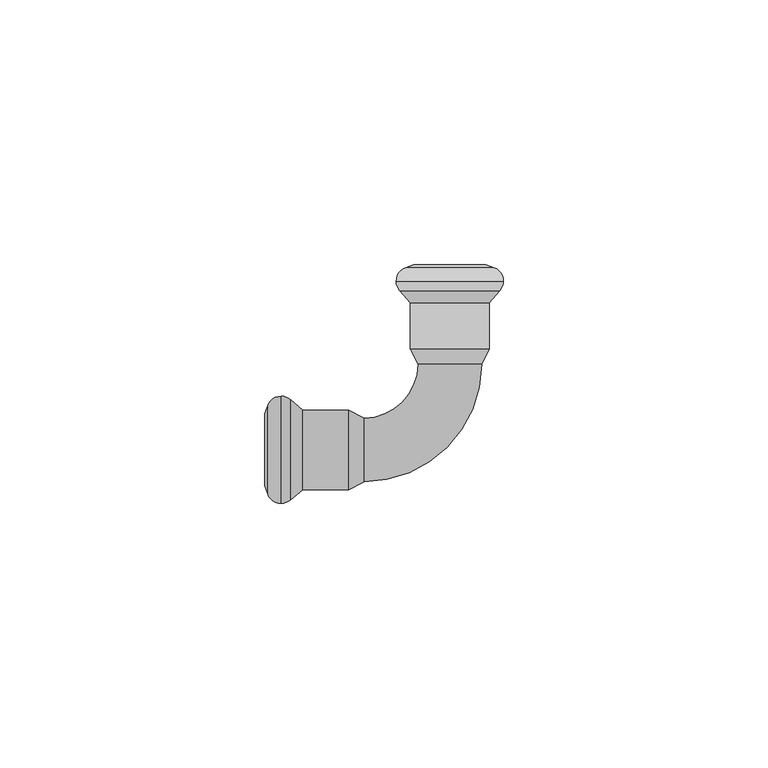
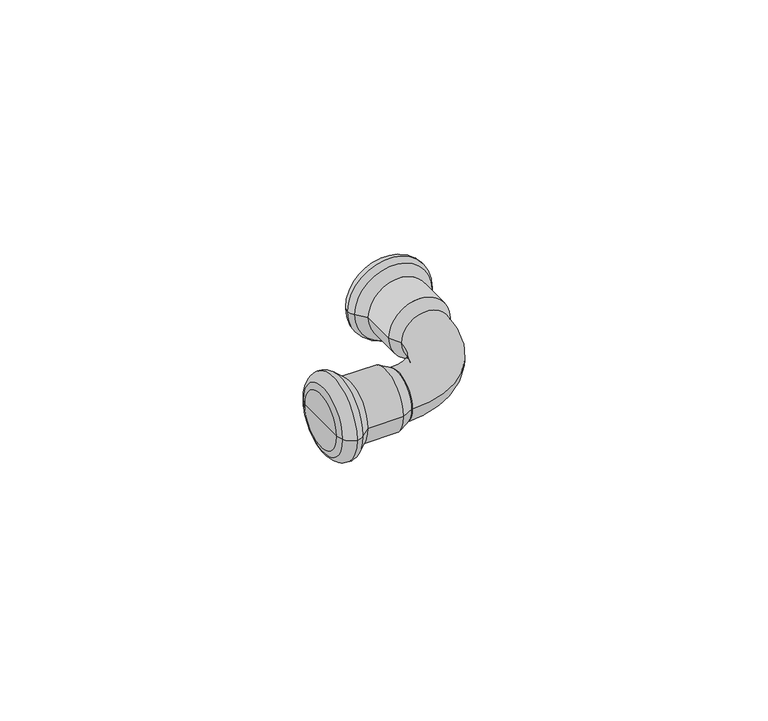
"""IFC4 building model written with IfcOpenShell, lengths in millimetres: pipe fitting geometry, KAN-therm Steel kolano : KAN-therm Steel kolano."""

from ifc_helpers import new_model, si_unit, point, frame, origin, place, context, project, spatial, polyline, circle_curve, ellipse_curve, trimmed, source, transform, mapped, element, save
from ifc_brep_helpers import plane_surface, cylinder_surface, revolved_surface, advanced_brep


def pipe_fitting_0f95d3b4(model_context):
    return source(origin(), model_context, "Body", "AdvancedBrep", [
        advanced_brep(
        [(-16.2, -6.0, 0.0), (-16.2, 6.0, 0.0), (6.0, 16.2, 0.0), (-6.0, 16.2, 0.0)],
        [
            (0, 1, circle_curve(frame((-16.2, 0.0, 0.0), z_axis=(-1.0, 0.0, 0.0), x_axis=(0.0, 1.0, 0.0)), 6.0)),
            (1, 0, circle_curve(frame((-16.2, 0.0, 0.0), z_axis=(-1.0, 0.0, 0.0), x_axis=(0.0, 1.0, 0.0)), 6.0)),
            (2, 3, circle_curve(frame((0.0, 16.2, 0.0), z_axis=(0.0, 1.0, 0.0), x_axis=(-1.0, 0.0, 0.0)), 6.0)),
            (3, 2, circle_curve(frame((0.0, 16.2, 0.0), z_axis=(0.0, 1.0, 0.0), x_axis=(-1.0, 0.0, 0.0)), 6.0)),
            (3, 1, circle_curve(frame((-16.2, 16.2, 0.0), z_axis=(0.0, 0.0, -1.0), x_axis=(0.0, -1.0, 0.0)), 10.2)),
            (0, 2, circle_curve(frame((-16.2, 16.2, 0.0), z_axis=(0.0, 0.0, 1.0), x_axis=(0.0, -1.0, 0.0)), 22.2)),
        ],
        [
            plane_surface(frame((-16.2, 0.0, 0.0), z_axis=(-1.0, 0.0, 0.0), x_axis=(0.0, 0.0, 1.0))),
            plane_surface(frame((0.0, 16.2, 0.0), z_axis=(0.0, 1.0, 0.0), x_axis=(0.0, 0.0, 1.0))),
            revolved_surface(trimmed(ellipse_curve(frame((-16.2, 0.0, 0.0), z_axis=(-1.0, 0.0, 0.0), x_axis=(0.0, 1.0, 0.0)), 6.0, 6.0), [point((-16.2, -6.0, 0.0))], [point((-16.2, 6.0, 0.0))], True, "CARTESIAN"), (-16.2, 16.2, 0.0), (0.0, 0.0, 1.0)),
            revolved_surface(trimmed(ellipse_curve(frame((-16.2, 0.0, 0.0), z_axis=(-1.0, 0.0, 0.0), x_axis=(0.0, 1.0, 0.0)), 6.0, 6.0), [point((-16.2, 6.0, 0.0))], [point((-16.2, -6.0, 0.0))], True, "CARTESIAN"), (-16.2, 16.2, 0.0), (0.0, 0.0, 1.0)),
        ],
        [
            (0, [[1, 2]]),
            (1, [[3, 4]]),
            (2, [[5, -1, 6, -4]]),
            (3, [[-6, -2, -5, -3]]),
        ],
    ),
        advanced_brep(
        [(10.125, 31.8921278, 0.0), (-10.125, 31.8921278, 0.0), (-8.3484544, 34.432052, 0.0), (8.3484544, 34.432052, 0.0), (9.4370225, 30.0922627, 0.0), (-9.4370225, 30.0922627, 0.0), (7.5, 27.7838092, 0.0), (-7.5, 27.7838092, 0.0), (7.5, 19.1180407, 0.0), (-7.5, 19.1180407, 0.0), (6.0, 16.2, 0.0), (-6.0, 16.2, 0.0), (0.0, 16.2, 0.0), (6.7880302, 35.0, 0.0), (-6.7880302, 35.0, 0.0), (0.0, 35.0, 0.0)],
        [
            (0, 1, circle_curve(frame((0.0, 31.8921278, 0.0), z_axis=(0.0, 1.0, 0.0), x_axis=(-1.0, 0.0, 0.0)), 10.125)),
            (1, 2, circle_curve(frame((-7.4249993, 31.89488, 0.0), z_axis=(0.0, 0.0, -1.0), x_axis=(1.0, 0.0, 0.0)), 2.7000021)),
            (2, 3, circle_curve(frame((0.0, 34.432052, 0.0), z_axis=(0.0, -1.0, 0.0), x_axis=(-1.0, 0.0, 0.0)), 8.3484544)),
            (3, 0, circle_curve(frame((7.4249993, 31.89488, 0.0), z_axis=(0.0, 0.0, -1.0), x_axis=(-1.0, 0.0, 0.0)), 2.7000021)),
            (1, 0, circle_curve(frame((0.0, 31.8921278, 0.0), z_axis=(0.0, 1.0, 0.0), x_axis=(-1.0, 0.0, 0.0)), 10.125)),
            (3, 2, circle_curve(frame((0.0, 34.432052, 0.0), z_axis=(0.0, -1.0, 0.0), x_axis=(-1.0, 0.0, 0.0)), 8.3484544)),
            (4, 5, circle_curve(frame((0.0, 30.0922627, 0.0), z_axis=(0.0, 1.0, 0.0), x_axis=(-1.0, 0.0, 0.0)), 9.4370225)),
            (5, 1, circle_curve(frame((-7.4230333, 31.8935049, 0.0), z_axis=(0.0, 0.0, -1.0), x_axis=(1.0, 0.0, 0.0)), 2.701967)),
            (0, 4, circle_curve(frame((7.4230333, 31.8935049, 0.0), z_axis=(0.0, 0.0, -1.0), x_axis=(-1.0, 0.0, 0.0)), 2.701967)),
            (5, 4, circle_curve(frame((0.0, 30.0922627, 0.0), z_axis=(0.0, 1.0, 0.0), x_axis=(-1.0, 0.0, 0.0)), 9.4370225)),
            (6, 7, circle_curve(frame((0.0, 27.7838092, 0.0), z_axis=(0.0, 1.0, 0.0), x_axis=(-1.0, 0.0, 0.0)), 7.5)),
            (7, 5),
            (4, 6),
            (7, 6, circle_curve(frame((0.0, 27.7838092, 0.0), z_axis=(0.0, 1.0, 0.0), x_axis=(-1.0, 0.0, 0.0)), 7.5)),
            (8, 9, circle_curve(frame((0.0, 19.1180407, 0.0), z_axis=(0.0, 1.0, 0.0), x_axis=(-1.0, 0.0, 0.0)), 7.5)),
            (9, 7),
            (6, 8),
            (9, 8, circle_curve(frame((0.0, 19.1180407, 0.0), z_axis=(0.0, 1.0, 0.0), x_axis=(-1.0, 0.0, 0.0)), 7.5)),
            (10, 11, circle_curve(frame((0.0, 16.2, 0.0), z_axis=(0.0, 1.0, 0.0), x_axis=(-1.0, 0.0, 0.0)), 6.0)),
            (11, 9),
            (8, 10),
            (11, 10, circle_curve(frame((0.0, 16.2, 0.0), z_axis=(0.0, 1.0, 0.0), x_axis=(-1.0, 0.0, 0.0)), 6.0)),
            (12, 11),
            (10, 12),
            (13, 14, circle_curve(frame((0.0, 35.0, 0.0), z_axis=(0.0, 1.0, 0.0), x_axis=(-1.0, 0.0, 0.0)), 6.7880302)),
            (14, 15),
            (15, 13),
            (14, 13, circle_curve(frame((0.0, 35.0, 0.0), z_axis=(0.0, 1.0, 0.0), x_axis=(-1.0, 0.0, 0.0)), 6.7880302)),
            (2, 14),
            (13, 3),
        ],
        [
            revolved_surface(trimmed(ellipse_curve(frame((-7.4249993, 31.89488, 0.0), z_axis=(0.0, 0.0, 1.0), x_axis=(1.0, 0.0, 0.0)), 2.7000021, 2.7000021), [point((-8.3484544, 34.432052, 0.0))], [point((-10.125, 31.8921278, 0.0))], True, "CARTESIAN"), (0.0, 1994.0, 0.0), (0.0, -1.0, 0.0)),
            revolved_surface(trimmed(ellipse_curve(frame((-7.4230333, 31.8935049, 0.0), z_axis=(0.0, 0.0, 1.0), x_axis=(1.0, 0.0, 0.0)), 2.701967, 2.701967), [point((-10.125, 31.8921278, 0.0))], [point((-9.4370225, 30.0922627, 0.0))], True, "CARTESIAN"), (0.0, 1994.0, 0.0), (0.0, -1.0, 0.0)),
            revolved_surface(polyline([(-9.4370225, 30.0922627, 0.0), (-7.5, 27.7838092, 0.0)]), (0.0, 1994.0, 0.0), (0.0, -1.0, 0.0)),
            cylinder_surface(frame((0.0, 1994.0, 0.0), z_axis=(0.0, -1.0, 0.0), x_axis=(-1.0, 0.0, 0.0)), 7.5),
            revolved_surface(polyline([(-7.5, 19.1180407, 0.0), (-6.0, 16.2, 0.0)]), (0.0, 1994.0, 0.0), (0.0, -1.0, 0.0)),
            plane_surface(frame((0.0, 16.2, 0.0), z_axis=(0.0, -1.0, 0.0), x_axis=(-1.0, 0.0, 0.0))),
            plane_surface(frame((0.0, 35.0, 0.0), z_axis=(0.0, 1.0, 0.0), x_axis=(-1.0, 0.0, 0.0))),
            revolved_surface(polyline([(-6.7880302, 35.0, 0.0), (-8.3484544, 34.432052, 0.0)]), (0.0, 1994.0, 0.0), (0.0, -1.0, 0.0)),
        ],
        [
            (0, [[1, 2, 3, 4]]),
            (0, [[5, -4, 6, -2]]),
            (1, [[7, 8, -1, 9]]),
            (1, [[10, -9, -5, -8]]),
            (2, [[11, 12, -7, 13]]),
            (2, [[14, -13, -10, -12]]),
            (3, [[15, 16, -11, 17]]),
            (3, [[18, -17, -14, -16]]),
            (4, [[19, 20, -15, 21]]),
            (4, [[22, -21, -18, -20]]),
            (5, [[23, -19, 24]]),
            (5, [[-24, -22, -23]]),
            (6, [[25, 26, 27]]),
            (6, [[28, -27, -26]]),
            (7, [[-3, 29, -25, 30]]),
            (7, [[-6, -30, -28, -29]]),
        ],
    ),
        advanced_brep(
        [(-19.1180407, -7.5, 0.0), (-19.1180407, 7.5, 0.0), (-16.2, 6.0, 0.0), (-16.2, -6.0, 0.0), (-27.7838092, -7.5, 0.0), (-27.7838092, 7.5, 0.0), (-30.0922627, -9.4370225, 0.0), (-30.0922627, 9.4370225, 0.0), (-31.8921278, -10.125, 0.0), (-31.8921278, 10.125, 0.0), (-34.432052, -8.3484544, 0.0), (-34.432052, 8.3484544, 0.0), (-35.0, -6.7880302, 0.0), (-35.0, 6.7880302, 0.0), (-35.0, 0.0, 0.0), (-16.2, 0.0, 0.0)],
        [
            (0, 1, circle_curve(frame((-19.1180407, 0.0, 0.0), z_axis=(1.0, 0.0, 0.0), x_axis=(0.0, 1.0, 0.0)), 7.5)),
            (1, 2),
            (2, 3, circle_curve(frame((-16.2, 0.0, 0.0), z_axis=(-1.0, 0.0, 0.0), x_axis=(0.0, 1.0, 0.0)), 6.0)),
            (3, 0),
            (1, 0, circle_curve(frame((-19.1180407, 0.0, 0.0), z_axis=(1.0, 0.0, 0.0), x_axis=(0.0, 1.0, 0.0)), 7.5)),
            (3, 2, circle_curve(frame((-16.2, 0.0, 0.0), z_axis=(-1.0, 0.0, 0.0), x_axis=(0.0, 1.0, 0.0)), 6.0)),
            (4, 5, circle_curve(frame((-27.7838092, 0.0, 0.0), z_axis=(1.0, 0.0, 0.0), x_axis=(0.0, 1.0, 0.0)), 7.5)),
            (5, 1),
            (0, 4),
            (5, 4, circle_curve(frame((-27.7838092, 0.0, 0.0), z_axis=(1.0, 0.0, 0.0), x_axis=(0.0, 1.0, 0.0)), 7.5)),
            (6, 7, circle_curve(frame((-30.0922627, 0.0, 0.0), z_axis=(1.0, 0.0, 0.0), x_axis=(0.0, 1.0, 0.0)), 9.4370225)),
            (7, 5),
            (4, 6),
            (7, 6, circle_curve(frame((-30.0922627, 0.0, 0.0), z_axis=(1.0, 0.0, 0.0), x_axis=(0.0, 1.0, 0.0)), 9.4370225)),
            (8, 9, circle_curve(frame((-31.8921278, 0.0, 0.0), z_axis=(1.0, 0.0, 0.0), x_axis=(0.0, 1.0, 0.0)), 10.125)),
            (9, 7, circle_curve(frame((-31.8935049, 7.4230333, 0.0), z_axis=(0.0, 0.0, -1.0), x_axis=(1.0, 0.0, 0.0)), 2.701967)),
            (6, 8, circle_curve(frame((-31.8935049, -7.4230333, 0.0), z_axis=(0.0, 0.0, -1.0), x_axis=(1.0, 0.0, 0.0)), 2.701967)),
            (9, 8, circle_curve(frame((-31.8921278, 0.0, 0.0), z_axis=(1.0, 0.0, 0.0), x_axis=(0.0, 1.0, 0.0)), 10.125)),
            (10, 11, circle_curve(frame((-34.432052, 0.0, 0.0), z_axis=(1.0, 0.0, 0.0), x_axis=(0.0, 1.0, 0.0)), 8.3484544)),
            (11, 9, circle_curve(frame((-31.89488, 7.4249993, 0.0), z_axis=(0.0, 0.0, -1.0), x_axis=(1.0, 0.0, 0.0)), 2.7000021)),
            (8, 10, circle_curve(frame((-31.89488, -7.4249993, 0.0), z_axis=(0.0, 0.0, -1.0), x_axis=(1.0, 0.0, 0.0)), 2.7000021)),
            (11, 10, circle_curve(frame((-34.432052, 0.0, 0.0), z_axis=(1.0, 0.0, 0.0), x_axis=(0.0, 1.0, 0.0)), 8.3484544)),
            (12, 13, circle_curve(frame((-35.0, 0.0, 0.0), z_axis=(1.0, 0.0, 0.0), x_axis=(0.0, 1.0, 0.0)), 6.7880302)),
            (13, 11),
            (10, 12),
            (13, 12, circle_curve(frame((-35.0, 0.0, 0.0), z_axis=(1.0, 0.0, 0.0), x_axis=(0.0, 1.0, 0.0)), 6.7880302)),
            (14, 13),
            (12, 14),
            (2, 15),
            (15, 3),
        ],
        [
            revolved_surface(polyline([(-16.2, 6.0, 0.0), (-19.1180407, 7.5, 0.0)]), (1354.742668, 0.0, 0.0), (-1.0, 0.0, 0.0)),
            cylinder_surface(frame((1354.742668, 0.0, 0.0), z_axis=(-1.0, 0.0, 0.0), x_axis=(0.0, 1.0, 0.0)), 7.5),
            revolved_surface(polyline([(-27.7838092, 7.5, 0.0), (-30.0922627, 9.4370225, 0.0)]), (1354.742668, 0.0, 0.0), (-1.0, 0.0, 0.0)),
            revolved_surface(trimmed(ellipse_curve(frame((-31.8935049, 7.4230333, 0.0), z_axis=(0.0, 0.0, 1.0), x_axis=(1.0, 0.0, 0.0)), 2.701967, 2.701967), [point((-30.0922627, 9.4370225, 0.0))], [point((-31.8921278, 10.125, 0.0))], True, "CARTESIAN"), (1354.742668, 0.0, 0.0), (-1.0, 0.0, 0.0)),
            revolved_surface(trimmed(ellipse_curve(frame((-31.89488, 7.4249993, 0.0), z_axis=(0.0, 0.0, 1.0), x_axis=(1.0, 0.0, 0.0)), 2.7000021, 2.7000021), [point((-31.8921278, 10.125, 0.0))], [point((-34.432052, 8.3484544, 0.0))], True, "CARTESIAN"), (1354.742668, 0.0, 0.0), (-1.0, 0.0, 0.0)),
            revolved_surface(polyline([(-34.432052, 8.3484544, 0.0), (-35.0, 6.7880302, 0.0)]), (1354.742668, 0.0, 0.0), (-1.0, 0.0, 0.0)),
            plane_surface(frame((-35.0, 0.0, 0.0), z_axis=(-1.0, 0.0, 0.0), x_axis=(0.0, 1.0, 0.0))),
            plane_surface(frame((-16.2, 0.0, 0.0), z_axis=(1.0, 0.0, 0.0), x_axis=(0.0, 1.0, 0.0))),
        ],
        [
            (0, [[1, 2, 3, 4]]),
            (0, [[5, -4, 6, -2]]),
            (1, [[7, 8, -1, 9]]),
            (1, [[10, -9, -5, -8]]),
            (2, [[11, 12, -7, 13]]),
            (2, [[14, -13, -10, -12]]),
            (3, [[15, 16, -11, 17]]),
            (3, [[18, -17, -14, -16]]),
            (4, [[19, 20, -15, 21]]),
            (4, [[22, -21, -18, -20]]),
            (5, [[23, 24, -19, 25]]),
            (5, [[26, -25, -22, -24]]),
            (6, [[27, -23, 28]]),
            (6, [[-28, -26, -27]]),
            (7, [[-3, 29, 30]]),
            (7, [[-6, -30, -29]]),
        ],
    ),
    ])


if __name__ == "__main__":
    model = new_model("IFC4")
    model_context = context("Model", 3, world=origin())
    ifc_project = project(units=[si_unit("LENGTHUNIT", "METRE", prefix="MILLI")], contexts=[model_context])
    site = spatial("IfcSite", under=ifc_project)
    building = spatial("IfcBuilding", under=site)
    placement = place(None, origin())
    pipe_fitting_shape = pipe_fitting_0f95d3b4(model_context)
    element("IfcPipeFitting", 1, ObjectType="KAN-therm Steel kolano : KAN-therm Steel kolano", at=placement, inside=building, context=model_context, shape_type="MappedRepresentation", body=[
        mapped(pipe_fitting_shape, transform((0.0, 0.0, 0.0), x_axis=(1.0, 0.0, 0.0), y_axis=(0.0, 1.0, 0.0), z_axis=(0.0, 0.0, 1.0))),
    ])
    save(model, "model.ifc")
